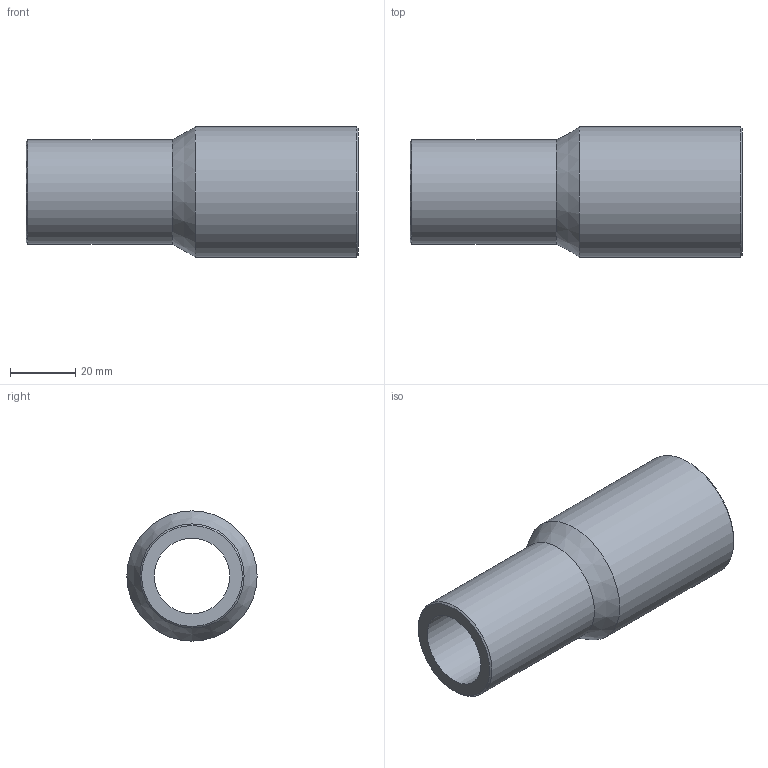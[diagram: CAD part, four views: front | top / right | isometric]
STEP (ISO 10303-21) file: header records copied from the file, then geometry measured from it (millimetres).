
FILE_DESCRIPTION(/* description */ ('Unknown'),/* implementation_level */ '2;1');
FILE_NAME(/* name */ 'RP040032H',/* time_stamp */ '2021-09-16T11:06:44+02:00',/* author */ ('Unknown'),/* organization */ ('Unknown'),/* preprocessor_version */ 'ST-DEVELOPER v16.7',/* originating_system */ 'Solid Edge',/* authorisation */ 'Unknown');
FILE_SCHEMA (('AUTOMOTIVE_DESIGN {1 0 10303 214 3 1 1}'));
Length unit declared in the file: millimetre
Products named in the file (1): RP040032H
Bounding box: 102 x 40 x 40 mm (x, y, z)
Volume: 51282.3 mm3; surface area: 21029.8 mm2
Topology: 1 solids, 1 shells, 10 faces, 19 edges, 11 vertices
Faces by surface type: cylinder 4, cone 4, plane 2
Full cylindrical faces by diameter (mm): 23.2 x1, 29 x1, 32 x1, 40 x1
Entity records: 238 total; most frequent: DIRECTION 42, CARTESIAN_POINT 31, AXIS2_PLACEMENT_3D 21, ORIENTED_EDGE 20, EDGE_LOOP 20, FACE_BOUND 20, EDGE_CURVE 10, VERTEX_POINT 10
